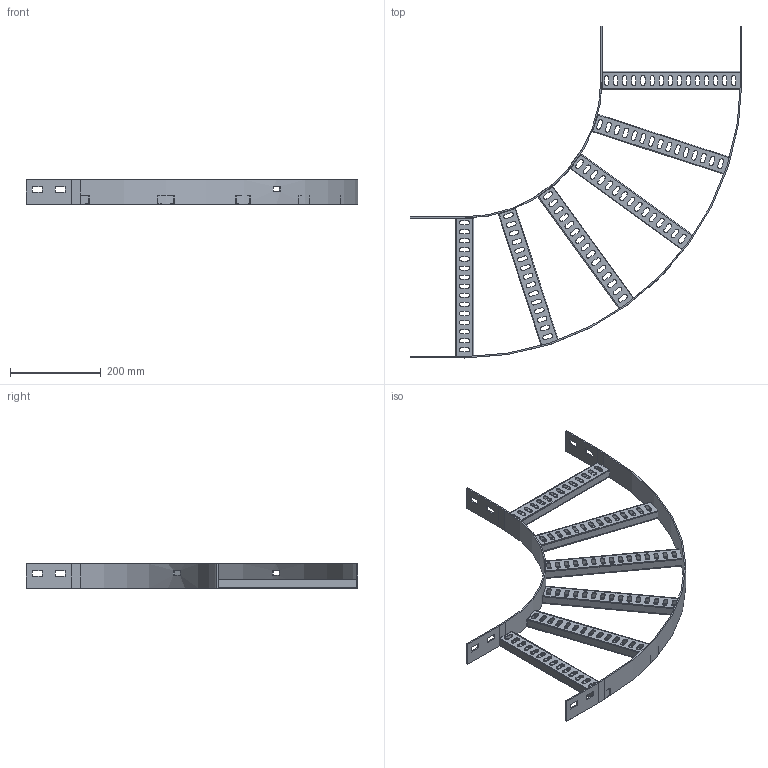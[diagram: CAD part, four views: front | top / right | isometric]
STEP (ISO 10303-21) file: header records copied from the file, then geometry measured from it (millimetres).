
FILE_DESCRIPTION(/* description */ ('','CAx-IF Rec.Pracs.---Representation and Presentation of Product Manufacturing Information (PMI)---4.0---2014-10-13'),/* implementation_level */ '2;1');
FILE_NAME(/* name */ 'Eurostrut_EFB60-300-90-300_Bend 90 for Cable Ladder ECL.step',/* time_stamp */ '2026-09-03T08:38:07+02:00',/* author */ (''),/* organization */ (''),/* preprocessor_version */ 'ST-DEVELOPER v20.1',/* originating_system */ 'Autodesk Revit 2027 27.2.0.39',/* authorisation */ '');
FILE_SCHEMA (('AP242_MANAGED_MODEL_BASED_3D_ENGINEERING_MIM_LF { 1 0 10303 442 2 1 4 }'));
Length unit declared in the file: millimetre
Products named in the file (6): TopLevelAssembly; Sweep; Extrusion; Extrusion_1; Eurostrut_Cable Ladder_Rung_Horizontal Bend_With slots; Eurostrut_Cable Ladder_Accessory End_54-94-142
Assembly tree (8 placements, depth 2):
  TopLevelAssembly
    Sweep
    Extrusion
    Extrusion_1
    Eurostrut_Cable Ladder_Rung_Horizontal Bend_With slots
    Eurostrut_Cable Ladder_Accessory End_54-94-142  x4
Bounding box: 731 x 731 x 54 mm (x, y, z)
Volume: 526415.6 mm3; surface area: 531874.5 mm2
Topology: 16 solids, 16 shells, 568 faces, 1608 edges, 1072 vertices
Faces by surface type: plane 360, bspline 180, cylinder 28
Entity records: 22740 total; most frequent: CARTESIAN_POINT 8620, ORIENTED_EDGE 3000, DIRECTION 2644, EDGE_CURVE 1500, LINE 1076, VECTOR 1076, VERTEX_POINT 1000, AXIS2_PLACEMENT_3D 784
